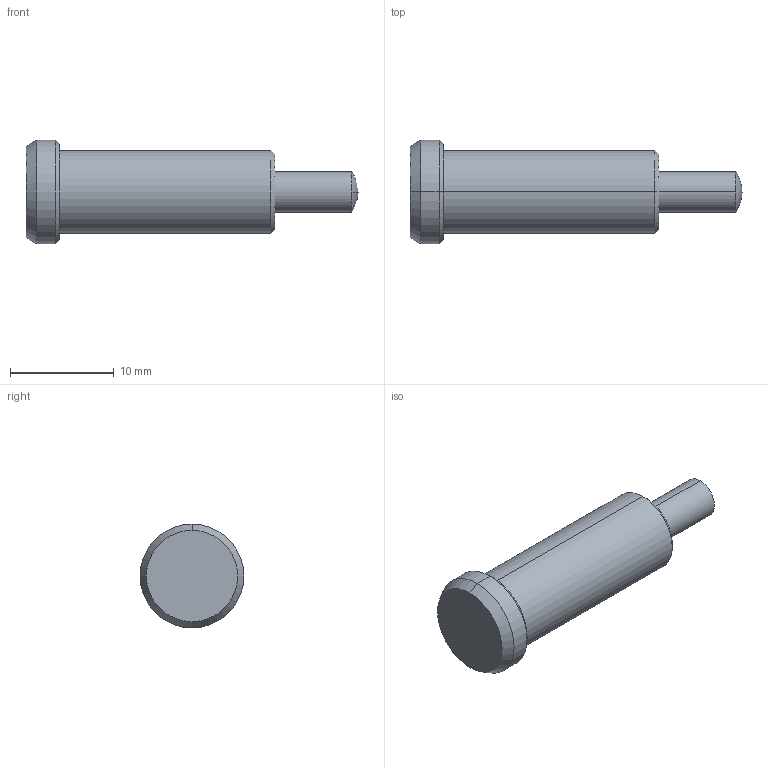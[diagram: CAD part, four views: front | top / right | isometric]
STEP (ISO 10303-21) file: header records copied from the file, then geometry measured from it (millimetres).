
FILE_DESCRIPTION (( 'STEP AP214' ), '1' );
FILE_NAME ('614.6-8-KN.step', '2022-01-17T12:56:19', ( '' ), ( '' ), 'SwSTEP 2.0', 'SolidWorks 2019', '' );
FILE_SCHEMA (( 'AUTOMOTIVE_DESIGN' ));
Length unit declared in the file: millimetre
Products named in the file (3): WB614.6_Bolzen^WB614.6_8-NI; 614.6-8-KN; WB614.6_Führung^WB614.6_8-NI
Assembly tree (2 placements, depth 2):
  614.6-8-KN
    WB614.6_Führung^WB614.6_8-NI
    WB614.6_Bolzen^WB614.6_8-NI
Bounding box: 32 x 10 x 10 mm (x, y, z)
Volume: 1286.8 mm3; surface area: 1122.8 mm2
Topology: 2 solids, 2 shells, 27 faces, 52 edges, 33 vertices
Faces by surface type: cylinder 12, plane 7, cone 6, sphere 2
Entity records: 810 total; most frequent: DIRECTION 150, CARTESIAN_POINT 117, ORIENTED_EDGE 104, AXIS2_PLACEMENT_3D 66, EDGE_CURVE 52, CIRCLE 34, VERTEX_POINT 33, EDGE_LOOP 31
